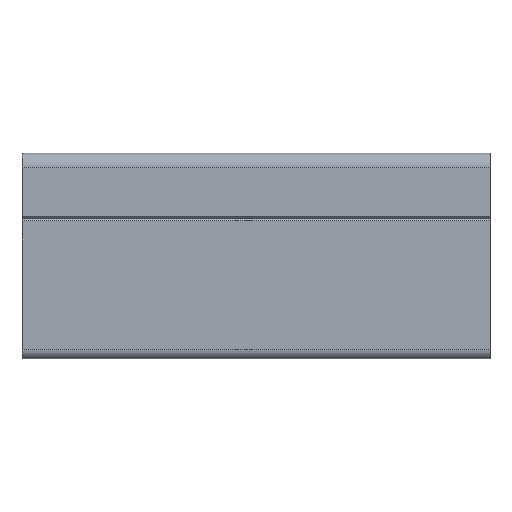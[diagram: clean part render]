
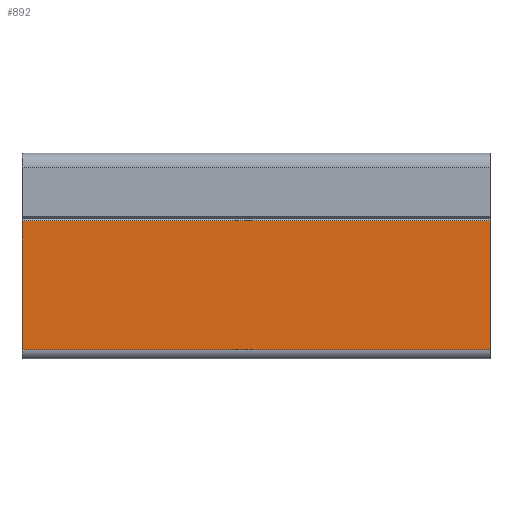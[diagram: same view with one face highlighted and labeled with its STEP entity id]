
A CAD part, front view. The second image highlights one B-rep face of the part: STEP entity #892.
In plain terms, the highlighted planar face has unit normal (0, -1, 0).
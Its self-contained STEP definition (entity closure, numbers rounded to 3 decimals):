
#183 = ORIENTED_EDGE ( 'NONE', *, *, #3400, .T. ) ;
#298 = VERTEX_POINT ( 'NONE', #1354 ) ;
#306 = DIRECTION ( 'NONE',  ( -1., 0., 0. ) ) ;
#428 = ORIENTED_EDGE ( 'NONE', *, *, #2737, .T. ) ;
#468 = CARTESIAN_POINT ( 'NONE',  ( 0., 0., 29.5 ) ) ;
#532 = LINE ( 'NONE', #3183, #1338 ) ;
#536 = LINE ( 'NONE', #1256, #3258 ) ;
#639 = VERTEX_POINT ( 'NONE', #2076 ) ;
#892 = ADVANCED_FACE ( 'NONE', ( #2160 ), #2793, .F. ) ;
#1065 = DIRECTION ( 'NONE',  ( 0., 0., -1. ) ) ;
#1194 = ORIENTED_EDGE ( 'NONE', *, *, #1207, .F. ) ;
#1207 = EDGE_CURVE ( 'NONE', #639, #298, #536, .T. ) ;
#1221 = AXIS2_PLACEMENT_3D ( 'NONE', #2609, #1503, #1246 ) ;
#1246 = DIRECTION ( 'NONE',  ( 0., 0., 1. ) ) ;
#1256 = CARTESIAN_POINT ( 'NONE',  ( 100., 0., 2. ) ) ;
#1333 = VECTOR ( 'NONE', #2954, 1000. ) ;
#1338 = VECTOR ( 'NONE', #306, 1000. ) ;
#1354 = CARTESIAN_POINT ( 'NONE',  ( 100., 0., 2. ) ) ;
#1369 = VERTEX_POINT ( 'NONE', #468 ) ;
#1422 = ORIENTED_EDGE ( 'NONE', *, *, #1987, .F. ) ;
#1503 = DIRECTION ( 'NONE',  ( 0., 1., 0. ) ) ;
#1730 = EDGE_LOOP ( 'NONE', ( #428, #1422, #1194, #183 ) ) ;
#1825 = DIRECTION ( 'NONE',  ( 0., 0., -1. ) ) ;
#1987 = EDGE_CURVE ( 'NONE', #298, #3259, #2721, .T. ) ;
#2076 = CARTESIAN_POINT ( 'NONE',  ( 100., 0., 29.5 ) ) ;
#2160 = FACE_OUTER_BOUND ( 'NONE', #1730, .T. ) ;
#2609 = CARTESIAN_POINT ( 'NONE',  ( 100., 0., 2. ) ) ;
#2684 = VECTOR ( 'NONE', #1825, 1000. ) ;
#2721 = LINE ( 'NONE', #3008, #1333 ) ;
#2737 = EDGE_CURVE ( 'NONE', #1369, #3259, #3293, .T. ) ;
#2793 = PLANE ( 'NONE',  #1221 ) ;
#2954 = DIRECTION ( 'NONE',  ( -1., 0., 0. ) ) ;
#3008 = CARTESIAN_POINT ( 'NONE',  ( 100., 0., 2. ) ) ;
#3183 = CARTESIAN_POINT ( 'NONE',  ( 100., 0., 29.5 ) ) ;
#3258 = VECTOR ( 'NONE', #1065, 1000. ) ;
#3259 = VERTEX_POINT ( 'NONE', #3368 ) ;
#3293 = LINE ( 'NONE', #3369, #2684 ) ;
#3368 = CARTESIAN_POINT ( 'NONE',  ( 0., 0., 2. ) ) ;
#3369 = CARTESIAN_POINT ( 'NONE',  ( 0., 0., 2. ) ) ;
#3400 = EDGE_CURVE ( 'NONE', #639, #1369, #532, .T. ) ;
